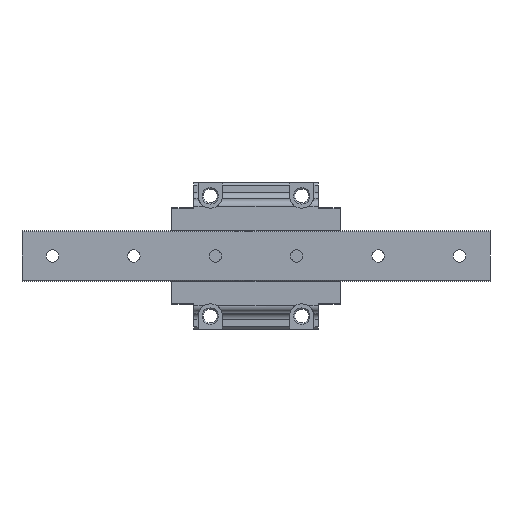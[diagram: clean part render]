
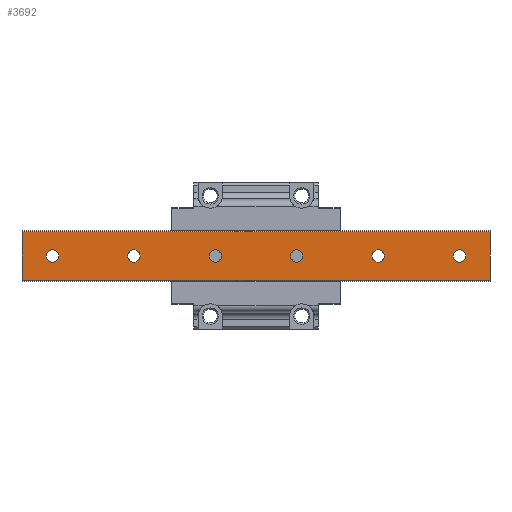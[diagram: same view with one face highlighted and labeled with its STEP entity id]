
A CAD part, front view. The second image highlights one B-rep face of the part: STEP entity #3692.
In plain terms, the highlighted planar face has unit normal (0, -1, 0).
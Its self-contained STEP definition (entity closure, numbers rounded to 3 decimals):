
#121=CIRCLE('',#3958,3.);
#122=CIRCLE('',#3959,3.);
#123=CIRCLE('',#3960,3.);
#124=CIRCLE('',#3961,3.);
#125=CIRCLE('',#3962,3.);
#126=CIRCLE('',#3963,3.);
#386=ORIENTED_EDGE('',*,*,#1446,.F.);
#387=ORIENTED_EDGE('',*,*,#1447,.F.);
#388=ORIENTED_EDGE('',*,*,#1448,.F.);
#389=ORIENTED_EDGE('',*,*,#1449,.F.);
#390=ORIENTED_EDGE('',*,*,#1450,.F.);
#391=ORIENTED_EDGE('',*,*,#1451,.F.);
#392=ORIENTED_EDGE('',*,*,#1452,.T.);
#393=ORIENTED_EDGE('',*,*,#1453,.F.);
#394=ORIENTED_EDGE('',*,*,#1454,.F.);
#395=ORIENTED_EDGE('',*,*,#1444,.T.);
#1444=EDGE_CURVE('',#1971,#1970,#2347,.T.);
#1446=EDGE_CURVE('',#1972,#1972,#121,.T.);
#1447=EDGE_CURVE('',#1973,#1973,#122,.T.);
#1448=EDGE_CURVE('',#1974,#1974,#123,.T.);
#1449=EDGE_CURVE('',#1975,#1975,#124,.T.);
#1450=EDGE_CURVE('',#1976,#1976,#125,.T.);
#1451=EDGE_CURVE('',#1977,#1977,#126,.T.);
#1452=EDGE_CURVE('',#1970,#1978,#2349,.T.);
#1453=EDGE_CURVE('',#1979,#1978,#2350,.T.);
#1454=EDGE_CURVE('',#1971,#1979,#2351,.T.);
#1970=VERTEX_POINT('',#5507);
#1971=VERTEX_POINT('',#5509);
#1972=VERTEX_POINT('',#5513);
#1973=VERTEX_POINT('',#5515);
#1974=VERTEX_POINT('',#5517);
#1975=VERTEX_POINT('',#5519);
#1976=VERTEX_POINT('',#5521);
#1977=VERTEX_POINT('',#5523);
#1978=VERTEX_POINT('',#5525);
#1979=VERTEX_POINT('',#5527);
#2347=LINE('',#5508,#2667);
#2349=LINE('',#5524,#2669);
#2350=LINE('',#5526,#2670);
#2351=LINE('',#5528,#2671);
#2667=VECTOR('',#4391,1000.);
#2669=VECTOR('',#4407,1000.);
#2670=VECTOR('',#4408,1000.);
#2671=VECTOR('',#4409,1000.);
#2978=EDGE_LOOP('',(#386));
#2979=EDGE_LOOP('',(#387));
#2980=EDGE_LOOP('',(#388));
#2981=EDGE_LOOP('',(#389));
#2982=EDGE_LOOP('',(#390));
#2983=EDGE_LOOP('',(#391));
#2984=EDGE_LOOP('',(#392,#393,#394,#395));
#3273=FACE_BOUND('',#2978,.T.);
#3274=FACE_BOUND('',#2979,.T.);
#3275=FACE_BOUND('',#2980,.T.);
#3276=FACE_BOUND('',#2981,.T.);
#3277=FACE_BOUND('',#2982,.T.);
#3278=FACE_BOUND('',#2983,.T.);
#3279=FACE_BOUND('',#2984,.T.);
#3566=PLANE('',#3957);
#3692=ADVANCED_FACE('',(#3273,#3274,#3275,#3276,#3277,#3278,#3279),#3566,
 .F.);
#3957=AXIS2_PLACEMENT_3D('',#5511,#4393,#4394);
#3958=AXIS2_PLACEMENT_3D('',#5512,#4395,#4396);
#3959=AXIS2_PLACEMENT_3D('',#5514,#4397,#4398);
#3960=AXIS2_PLACEMENT_3D('',#5516,#4399,#4400);
#3961=AXIS2_PLACEMENT_3D('',#5518,#4401,#4402);
#3962=AXIS2_PLACEMENT_3D('',#5520,#4403,#4404);
#3963=AXIS2_PLACEMENT_3D('',#5522,#4405,#4406);
#4391=DIRECTION('',(-1.,0.,0.));
#4393=DIRECTION('',(0.,1.,0.));
#4394=DIRECTION('',(0.,0.,1.));
#4395=DIRECTION('',(0.,-1.,0.));
#4396=DIRECTION('',(0.,0.,-1.));
#4397=DIRECTION('',(0.,-1.,0.));
#4398=DIRECTION('',(0.,0.,-1.));
#4399=DIRECTION('',(0.,-1.,0.));
#4400=DIRECTION('',(0.,0.,-1.));
#4401=DIRECTION('',(0.,-1.,0.));
#4402=DIRECTION('',(0.,0.,-1.));
#4403=DIRECTION('',(0.,-1.,0.));
#4404=DIRECTION('',(0.,0.,-1.));
#4405=DIRECTION('',(0.,-1.,0.));
#4406=DIRECTION('',(0.,0.,-1.));
#4407=DIRECTION('',(0.,0.,-1.));
#4408=DIRECTION('',(-1.,0.,0.));
#4409=DIRECTION('',(0.,0.,-1.));
#5507=CARTESIAN_POINT('',(-15.,0.,11.9));
#5508=CARTESIAN_POINT('',(215.,0.,11.9));
#5509=CARTESIAN_POINT('',(215.,0.,11.9));
#5511=CARTESIAN_POINT('',(215.,0.,11.9));
#5512=CARTESIAN_POINT('',(40.,0.,0.));
#5513=CARTESIAN_POINT('',(40.,0.,-3.));
#5514=CARTESIAN_POINT('',(80.,0.,0.));
#5515=CARTESIAN_POINT('',(80.,0.,-3.));
#5516=CARTESIAN_POINT('',(120.,0.,0.));
#5517=CARTESIAN_POINT('',(120.,0.,-3.));
#5518=CARTESIAN_POINT('',(160.,0.,0.));
#5519=CARTESIAN_POINT('',(160.,0.,-3.));
#5520=CARTESIAN_POINT('',(200.,0.,0.));
#5521=CARTESIAN_POINT('',(200.,0.,-3.));
#5522=CARTESIAN_POINT('',(0.,0.,0.));
#5523=CARTESIAN_POINT('',(0.,0.,-3.));
#5524=CARTESIAN_POINT('',(-15.,0.,11.9));
#5525=CARTESIAN_POINT('',(-15.,0.,-11.9));
#5526=CARTESIAN_POINT('',(215.,0.,-11.9));
#5527=CARTESIAN_POINT('',(215.,0.,-11.9));
#5528=CARTESIAN_POINT('',(215.,0.,11.9));
